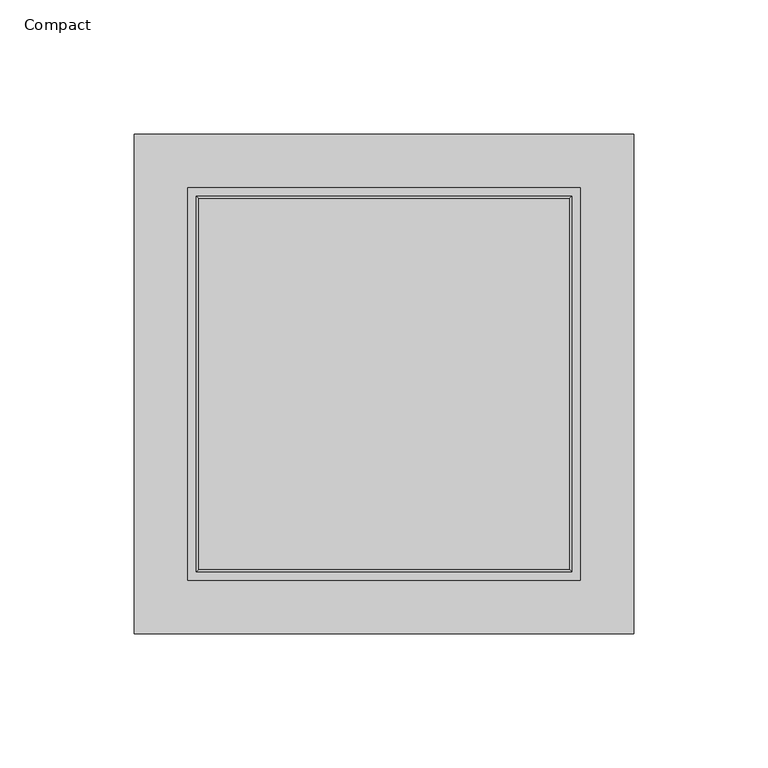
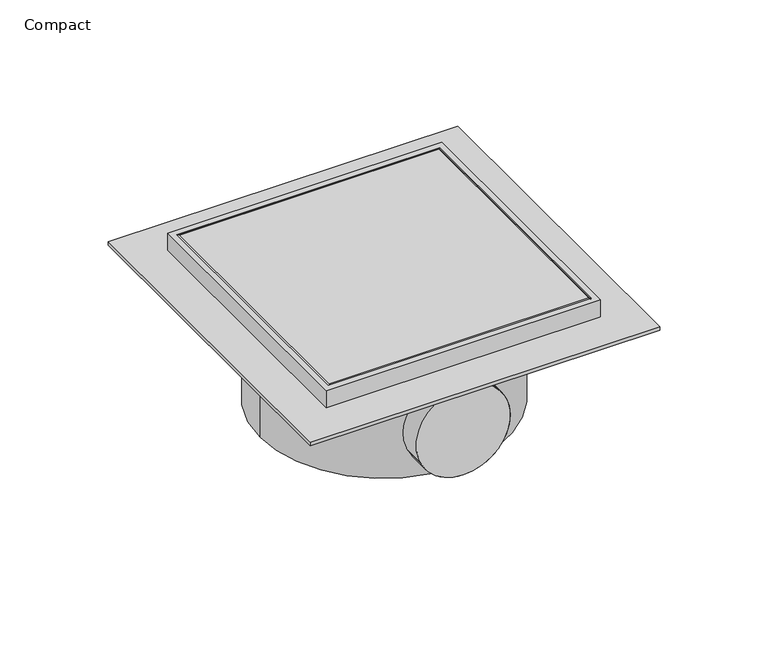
"""IFC4 building model written with IfcOpenShell, lengths in millimetres: sanitary terminal geometry, NLRS_PF_52_UN_Aqua Compact_Easydrain : Compact."""

from ifc_helpers import new_model, si_unit, point, frame, frame_2d, origin, origin_2d, place, context, project, spatial, polyline, circle_curve, ellipse_curve, trimmed, segment, composite_curve, outline, extrude, source, transform, mapped, element, save
from ifc_brep_helpers import plane_surface, cylinder_surface, advanced_brep


def compact_6f6b42fc(model_context):
    return source(origin(), model_context, "Body", "SolidModel", [
        extrude(outline(composite_curve([segment(trimmed(circle_curve(frame_2d((-48.0, 0.0)), 25.0), [point((-23.0, 0.0))], [point((-73.0, 0.0))], False, "CARTESIAN"), True, "CONTINUOUS"), segment(trimmed(circle_curve(frame_2d((-48.0, 0.0)), 25.0), [point((-73.0, 0.0))], [point((-23.0, 0.0))], False, "CARTESIAN"), True, "CONTINUOUS")], self_intersect=False)), frame((0.0, -73.0, 0.0), z_axis=(0.0, 1.0, 0.0), x_axis=(0.0, 0.0, 1.0)), (0.0, 0.0, 1.0), 73.0),
        extrude(outline(composite_curve([segment(trimmed(circle_curve(frame_2d((-48.0, 0.0)), 25.0), [point((-48.0, -25.0))], [point((-48.0, 25.0))], False, "CARTESIAN"), True, "CONTINUOUS"), segment(trimmed(circle_curve(frame_2d((-48.0, 0.0)), 25.0), [point((-48.0, 25.0))], [point((-48.0, -25.0))], False, "CARTESIAN"), True, "CONTINUOUS")], self_intersect=False)), frame((0.0, -73.0, 0.0), z_axis=(0.0, 1.0, 0.0), x_axis=(0.0, 0.0, 1.0)), (0.0, 0.0, 1.0), 73.0),
        extrude(outline(polyline([(93.0, 93.0), (93.0, -93.0), (-93.0, -93.0), (-93.0, 93.0), (93.0, 93.0)])), frame((0.0, 0.0, -12.0), z_axis=(0.0, 0.0, 1.0), x_axis=(1.0, 0.0, 0.0)), (0.0, 0.0, 1.0), 2.0),
        extrude(outline(polyline([(73.0, 73.0), (73.0, -73.0), (-73.0, -73.0), (-73.0, 73.0), (73.0, 73.0)]), holes=[polyline([(70.0, 70.0), (-70.0, 70.0), (-70.0, -70.0), (70.0, -70.0), (70.0, 70.0)])]), frame((0.0, 0.0, -10.0), z_axis=(0.0, 0.0, 1.0), x_axis=(1.0, 0.0, 0.0)), (0.0, 0.0, 1.0), 10.0),
        advanced_brep(
        [(70.0, 70.0, -10.0), (70.0, -70.0, -10.0), (-70.0, -70.0, -10.0), (-70.0, 70.0, -10.0), (-69.0, 69.0, 0.0), (-69.0, -69.0, 0.0), (69.0, -69.0, 0.0), (69.0, 69.0, 0.0), (-70.0, 70.0, -1.0), (70.0, 70.0, -1.0), (-70.0, -70.0, -1.0), (70.0, -70.0, -1.0)],
        [
            (0, 1),
            (1, 2),
            (2, 3),
            (3, 0),
            (4, 5),
            (5, 6),
            (6, 7),
            (7, 4),
            (3, 8),
            (8, 9),
            (9, 0),
            (2, 10),
            (10, 8),
            (1, 11),
            (11, 10),
            (9, 11),
            (10, 5, ellipse_curve(frame((-69.0, -69.0, -1.0), z_axis=(-0.7071067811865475, 0.7071067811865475, 0.0), x_axis=(-0.7071067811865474, -0.7071067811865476, 0.0)), 1.4142136, 1.0)),
            (4, 8, ellipse_curve(frame((-69.0, 69.0, -1.0), z_axis=(-0.7071067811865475, -0.7071067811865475, 0.0), x_axis=(0.7071067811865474, -0.7071067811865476, 0.0)), 1.4142136, 1.0)),
            (11, 6, ellipse_curve(frame((69.0, -69.0, -1.0), z_axis=(-0.7071067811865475, -0.7071067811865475, 0.0), x_axis=(0.7071067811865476, -0.7071067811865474, 0.0)), 1.4142136, 1.0)),
            (9, 7, ellipse_curve(frame((69.0, 69.0, -1.0), z_axis=(0.7071067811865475, -0.7071067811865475, 0.0), x_axis=(0.7071067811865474, 0.7071067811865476, 0.0)), 1.4142136, 1.0)),
        ],
        [
            plane_surface(frame((-70.0, 70.0, -10.0), z_axis=(0.0, 0.0, -1.0), x_axis=(1.0, 0.0, 0.0))),
            plane_surface(frame((-70.0, 70.0, 0.0), z_axis=(0.0, 0.0, 1.0), x_axis=(-1.0, 0.0, 0.0))),
            plane_surface(frame((70.0, 70.0, 0.0), z_axis=(0.0, 1.0, 0.0), x_axis=(0.0, 0.0, -1.0))),
            plane_surface(frame((-70.0, 70.0, 0.0), z_axis=(-1.0, 0.0, 0.0), x_axis=(0.0, 0.0, -1.0))),
            plane_surface(frame((-70.0, -70.0, 0.0), z_axis=(0.0, -1.0, 0.0), x_axis=(0.0, 0.0, -1.0))),
            plane_surface(frame((70.0, -70.0, 0.0), z_axis=(1.0, 0.0, 0.0), x_axis=(0.0, 0.0, -1.0))),
            cylinder_surface(frame((-69.0, 70.0, -1.0), z_axis=(0.0, -1.0, 0.0), x_axis=(1.0, 0.0, 0.0)), 1.0),
            cylinder_surface(frame((-70.0, -69.0, -1.0), z_axis=(1.0, 0.0, 0.0), x_axis=(0.0, 1.0, 0.0)), 1.0),
            cylinder_surface(frame((69.0, -70.0, -1.0), z_axis=(0.0, 1.0, 0.0), x_axis=(-1.0, 0.0, 0.0)), 1.0),
            cylinder_surface(frame((70.0, 69.0, -1.0), z_axis=(-1.0, 0.0, 0.0), x_axis=(0.0, -1.0, 0.0)), 1.0),
        ],
        [
            (0, [[1, 2, 3, 4]]),
            (1, [[5, 6, 7, 8]]),
            (2, [[-4, 9, 10, 11]]),
            (3, [[-3, 12, 13, -9]]),
            (4, [[-2, 14, 15, -12]]),
            (5, [[-1, -11, 16, -14]]),
            (6, [[17, -5, 18, -13]]),
            (7, [[-17, -15, 19, -6]]),
            (8, [[-19, -16, 20, -7]]),
            (9, [[-18, -8, -20, -10]]),
        ],
    ),
        extrude(outline(composite_curve([segment(trimmed(circle_curve(origin_2d(), 66.0), [point((-66.0, 0.0))], [point((66.0, 0.0))], False, "CARTESIAN"), True, "CONTINUOUS"), segment(trimmed(circle_curve(origin_2d(), 66.0), [point((66.0, 0.0))], [point((-66.0, 0.0))], False, "CARTESIAN"), True, "CONTINUOUS")], self_intersect=False)), frame((0.0, 0.0, -73.0), z_axis=(0.0, 0.0, 1.0), x_axis=(1.0, 0.0, 0.0)), (0.0, 0.0, 1.0), 63.0),
    ])


if __name__ == "__main__":
    model = new_model("IFC4")
    model_context = context("Model", 3, world=origin())
    ifc_project = project(units=[si_unit("LENGTHUNIT", "METRE", prefix="MILLI")], contexts=[model_context])
    site = spatial("IfcSite", under=ifc_project)
    building = spatial("IfcBuilding", under=site)
    placement = place(None, origin())
    compact_shape = compact_6f6b42fc(model_context)
    element("IfcSanitaryTerminal", 1, ObjectType="NLRS_PF_52_UN_Aqua Compact_Easydrain : Compact", at=placement, inside=building, context=model_context, shape_type="MappedRepresentation", body=[
        mapped(compact_shape, transform((0.0, 0.0, 0.0), x_axis=(1.0, 0.0, 0.0), y_axis=(0.0, 1.0, 0.0), z_axis=(0.0, 0.0, 1.0))),
    ])
    save(model, "model.ifc")
